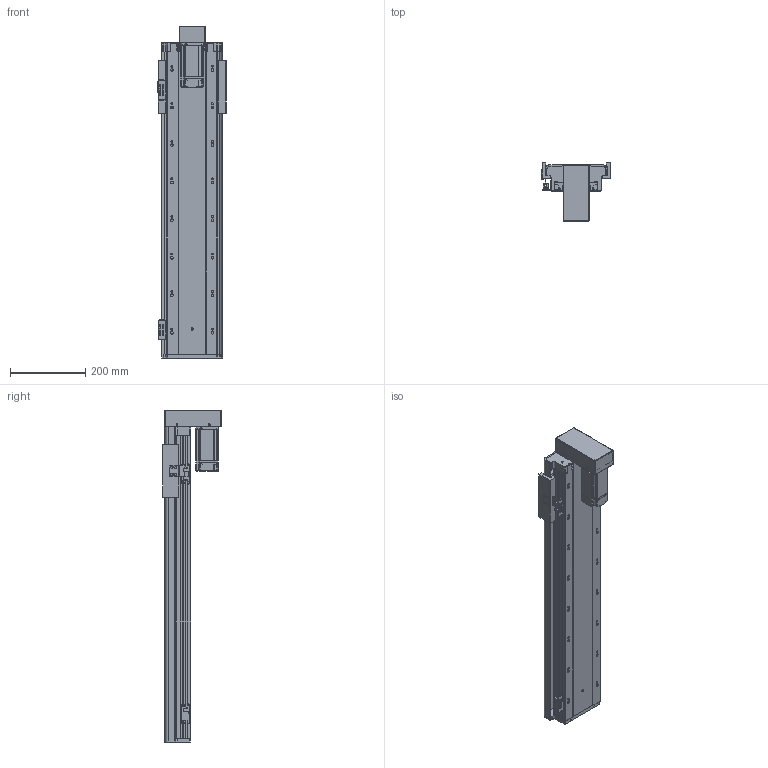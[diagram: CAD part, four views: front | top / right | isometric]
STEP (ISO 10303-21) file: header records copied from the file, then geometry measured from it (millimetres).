
FILE_DESCRIPTION (( 'STEP AP203' ), '1' );
FILE_NAME ('RY140FB-L2010-300-BK.SLDASM_600.step', '2021-02-23T02:28:51', ( '盈信电脑' ), ( '东莞市道滘镇水果街19号' ), 'SwSTEP 2.0', 'SolidWorks 2012', '' );
FILE_SCHEMA (( 'CONFIG_CONTROL_DESIGN' ));
Length unit declared in the file: millimetre
Products named in the file (17): RY140-674嫖萇耀輸; RY140FB-覜茼え; RY140FB-L2010-300-BK.SLDASM_600; RY140FB-300蛌殏奻裔啣-BK_600; 覜茼ん674; RY140直线电机感应器674光电安装座; RY140FB-狟殏萇儂假蚾啣; RY140FB-20佪裝臏賑輸; 侂狟400W侜督萇儂; RY140狟殏萇儂欶; 滅袉蝶18-24; 滅袉蝶18-10; 15; RY140FB-转折电机端支撑座(7002); RY140FB-綴裔啣; RY140FB-300蛌殏倰第菁釱-BK_600
Assembly tree (20 placements, depth 3):
  RY140FB-L2010-300-BK.SLDASM_600
    RY140FB-300蛌殏倰第菁釱-BK_600
    RY140FB-綴裔啣
    滅袉蝶18-24  x2
    滅袉蝶18-10
    RY140FB-转折电机端支撑座(7002)
    侂狟400W侜督萇儂
      15
    RY140狟殏萇儂欶
    RY140FB-狟殏萇儂假蚾啣
    RY140FB-20佪裝臏賑輸
    RY140FB-300蛌殏奻裔啣-BK_600
    RY140-674嫖萇耀輸
      覜茼ん674  x2
      RY140直线电机感应器674光电安装座
    RY140-674嫖萇耀輸
      RY140直线电机感应器674光电安装座
      覜茼ん674
    RY140FB-覜茼え
Bounding box: 183 x 156 x 884 mm (x, y, z)
Volume: 3613808.7 mm3; surface area: 1174823.5 mm2
Topology: 17 solids, 17 shells, 1758 faces, 4825 edges, 3071 vertices
Faces by surface type: cylinder 849, plane 719, cone 162, bspline 28
Entity records: 53087 total; most frequent: CARTESIAN_POINT 10741, DIRECTION 8582, ORIENTED_EDGE 8374, EDGE_CURVE 4187, AXIS2_PLACEMENT_3D 3092, VERTEX_POINT 2739, VECTOR 2398, LINE 2398
